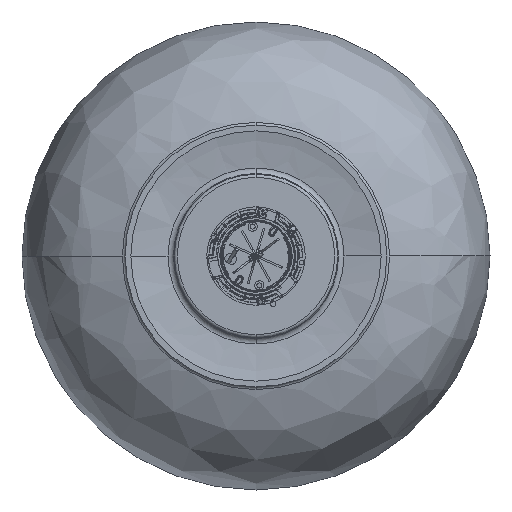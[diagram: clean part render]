
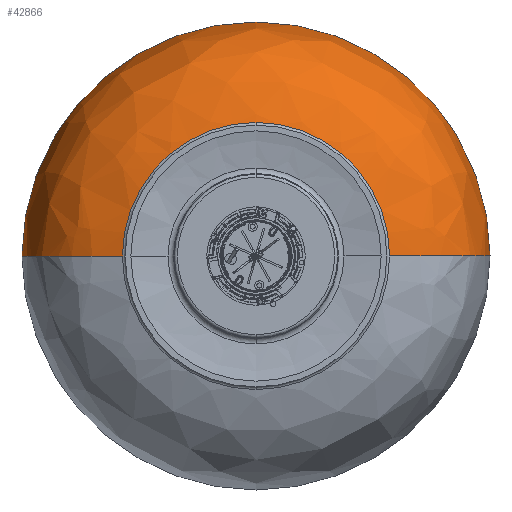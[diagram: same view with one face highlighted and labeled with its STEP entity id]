
A CAD part, front view. The second image highlights one B-rep face of the part: STEP entity #42866.
In plain terms, the highlighted free-form (B-spline) face has degree [3, 3] with [7, 4] control points.
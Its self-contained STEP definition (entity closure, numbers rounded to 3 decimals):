
#135 = CARTESIAN_POINT ( 'NONE',  ( 0.192, -274.462, 115.219 ) ) ;
#932 = CARTESIAN_POINT ( 'NONE',  ( 178.185, -248.922, -0.055 ) ) ;
#2837 = CARTESIAN_POINT ( 'NONE',  ( 202.244, -157.283, 404.048 ) ) ;
#5146 = CARTESIAN_POINT ( 'NONE',  ( 140.776, -267.66, -0.055 ) ) ;
#5897 = B_SPLINE_CURVE_WITH_KNOTS ( 'NONE', 3,
 ( #38469, #74370, #5146, #38111, #33497, #10470, #61929 ),
 .UNSPECIFIED., .F., .F.,
 ( 4, 1, 1, 1, 4 ),
 ( 0.172, 0.189, 0.329, 0.437, 0.579 ),
 .UNSPECIFIED. ) ;
#6243 = EDGE_CURVE ( 'NONE', #33276, #27416, #10997, .T. ) ;
#6663 = CARTESIAN_POINT ( 'NONE',  ( -140.391, -267.66, -0.055 ) ) ;
#7109 =( BOUNDED_SURFACE ( )  B_SPLINE_SURFACE ( 3, 3, ( 
 ( #59615, #7797, #30828, #71375 ),
 ( #19492, #42597, #17982, #41073 ),
 ( #29668, #64186, #58501, #6663 ),
 ( #932, #24027, #72107, #14214 ),
 ( #15300, #61492, #73215, #60380 ),
 ( #48619, #2837, #20238, #37318 ),
 ( #9677, #71734, #67227, #60749 ) ),
 .UNSPECIFIED., .F., .F., .F. ) 
 B_SPLINE_SURFACE_WITH_KNOTS ( ( 4, 1, 1, 1, 4 ),
 ( 4, 4 ),
 ( 0.172, 0.189, 0.329, 0.437, 0.579 ),
 ( 0., 1. ),
 .UNSPECIFIED. ) 
 GEOMETRIC_REPRESENTATION_ITEM ( )  RATIONAL_B_SPLINE_SURFACE ( (
 ( 1., 0.333, 0.333, 1.),
 ( 1., 0.333, 0.333, 1.),
 ( 1., 0.333, 0.333, 1.),
 ( 1., 0.333, 0.333, 1.),
 ( 1., 0.333, 0.333, 1.),
 ( 1., 0.333, 0.333, 1.),
 ( 1., 0.333, 0.333, 1.) ) ) 
 REPRESENTATION_ITEM ( '' )  SURFACE ( )  );
#7797 = CARTESIAN_POINT ( 'NONE',  ( 115.466, -274.462, 230.492 ) ) ;
#9677 = CARTESIAN_POINT ( 'NONE',  ( 202.192, -136.5, -0.055 ) ) ;
#9952 = EDGE_CURVE ( 'NONE', #19084, #20397, #43111, .T. ) ;
#10470 = CARTESIAN_POINT ( 'NONE',  ( 202.244, -157.283, -0.055 ) ) ;
#10997 = CIRCLE ( 'NONE', #61773, 202. ) ;
#12044 = CARTESIAN_POINT ( 'NONE',  ( 202.192, -136.5, -0.055 ) ) ;
#12428 = ORIENTED_EDGE ( 'NONE', *, *, #6243, .T. ) ;
#12552 = CARTESIAN_POINT ( 'NONE',  ( 0.192, -274.462, -0.055 ) ) ;
#14214 = CARTESIAN_POINT ( 'NONE',  ( -177.801, -248.922, -0.055 ) ) ;
#15300 = CARTESIAN_POINT ( 'NONE',  ( 201.246, -195.828, -0.055 ) ) ;
#17928 = CARTESIAN_POINT ( 'NONE',  ( -140.391, -267.66, -0.055 ) ) ;
#17982 = CARTESIAN_POINT ( 'NONE',  ( -117.496, -273.859, 235.322 ) ) ;
#19084 = VERTEX_POINT ( 'NONE', #56633 ) ;
#19434 = AXIS2_PLACEMENT_3D ( 'NONE', #12552, #24245, #42440 ) ;
#19441 = CARTESIAN_POINT ( 'NONE',  ( -117.496, -273.859, -0.055 ) ) ;
#19492 = CARTESIAN_POINT ( 'NONE',  ( 117.881, -273.859, -0.055 ) ) ;
#20238 = CARTESIAN_POINT ( 'NONE',  ( -201.859, -157.283, 404.048 ) ) ;
#20397 = VERTEX_POINT ( 'NONE', #135 ) ;
#23055 = DIRECTION ( 'NONE',  ( 0., 0., -1. ) ) ;
#24027 = CARTESIAN_POINT ( 'NONE',  ( 178.185, -248.922, 355.931 ) ) ;
#24245 = DIRECTION ( 'NONE',  ( 0., 1., 0. ) ) ;
#24732 = CARTESIAN_POINT ( 'NONE',  ( -201.808, -136.5, -0.055 ) ) ;
#25038 = ORIENTED_EDGE ( 'NONE', *, *, #61482, .T. ) ;
#25636 = VERTEX_POINT ( 'NONE', #70915 ) ;
#27416 = VERTEX_POINT ( 'NONE', #72669 ) ;
#29668 = CARTESIAN_POINT ( 'NONE',  ( 140.776, -267.66, -0.055 ) ) ;
#30828 = CARTESIAN_POINT ( 'NONE',  ( -115.081, -274.462, 230.492 ) ) ;
#32656 = CIRCLE ( 'NONE', #19434, 115.274 ) ;
#32747 = EDGE_CURVE ( 'NONE', #25636, #33276, #5897, .T. ) ;
#33276 = VERTEX_POINT ( 'NONE', #12044 ) ;
#33497 = CARTESIAN_POINT ( 'NONE',  ( 201.246, -195.828, -0.055 ) ) ;
#37318 = CARTESIAN_POINT ( 'NONE',  ( -201.859, -157.283, -0.055 ) ) ;
#38111 = CARTESIAN_POINT ( 'NONE',  ( 178.185, -248.922, -0.055 ) ) ;
#38241 = CARTESIAN_POINT ( 'NONE',  ( 0.192, -136.5, -0.055 ) ) ;
#38469 = CARTESIAN_POINT ( 'NONE',  ( 115.466, -274.462, -0.055 ) ) ;
#41073 = CARTESIAN_POINT ( 'NONE',  ( -117.496, -273.859, -0.055 ) ) ;
#42440 = DIRECTION ( 'NONE',  ( 0., 0., -1. ) ) ;
#42597 = CARTESIAN_POINT ( 'NONE',  ( 117.881, -273.859, 235.322 ) ) ;
#42866 = ADVANCED_FACE ( 'NONE', ( #64952 ), #7109, .T. ) ;
#43111 = CIRCLE ( 'NONE', #58806, 115.274 ) ;
#43626 = ORIENTED_EDGE ( 'NONE', *, *, #9952, .T. ) ;
#46382 = DIRECTION ( 'NONE',  ( 0., -1., 0. ) ) ;
#47973 = EDGE_LOOP ( 'NONE', ( #25038, #58339, #12428, #49803, #43626 ) ) ;
#48187 = CARTESIAN_POINT ( 'NONE',  ( -115.081, -274.462, -0.055 ) ) ;
#48619 = CARTESIAN_POINT ( 'NONE',  ( 202.244, -157.283, -0.055 ) ) ;
#49803 = ORIENTED_EDGE ( 'NONE', *, *, #72188, .F. ) ;
#56633 = CARTESIAN_POINT ( 'NONE',  ( -115.081, -274.462, -0.055 ) ) ;
#58339 = ORIENTED_EDGE ( 'NONE', *, *, #32747, .T. ) ;
#58501 = CARTESIAN_POINT ( 'NONE',  ( -140.391, -267.66, 281.112 ) ) ;
#58806 = AXIS2_PLACEMENT_3D ( 'NONE', #68582, #74925, #23055 ) ;
#59193 = CARTESIAN_POINT ( 'NONE',  ( -177.801, -248.922, -0.055 ) ) ;
#59615 = CARTESIAN_POINT ( 'NONE',  ( 115.466, -274.462, -0.055 ) ) ;
#59943 = CARTESIAN_POINT ( 'NONE',  ( -200.861, -195.828, -0.055 ) ) ;
#60380 = CARTESIAN_POINT ( 'NONE',  ( -200.861, -195.828, -0.055 ) ) ;
#60749 = CARTESIAN_POINT ( 'NONE',  ( -201.808, -136.5, -0.055 ) ) ;
#61316 = DIRECTION ( 'NONE',  ( 0., 0., -1. ) ) ;
#61482 = EDGE_CURVE ( 'NONE', #20397, #25636, #32656, .T. ) ;
#61492 = CARTESIAN_POINT ( 'NONE',  ( 201.246, -195.828, 402.052 ) ) ;
#61773 = AXIS2_PLACEMENT_3D ( 'NONE', #38241, #46382, #61316 ) ;
#61929 = CARTESIAN_POINT ( 'NONE',  ( 202.192, -136.5, -0.055 ) ) ;
#64186 = CARTESIAN_POINT ( 'NONE',  ( 140.776, -267.66, 281.112 ) ) ;
#64906 = CARTESIAN_POINT ( 'NONE',  ( -201.859, -157.283, -0.055 ) ) ;
#64952 = FACE_OUTER_BOUND ( 'NONE', #47973, .T. ) ;
#65243 = B_SPLINE_CURVE_WITH_KNOTS ( 'NONE', 3,
 ( #48187, #19441, #17928, #59193, #59943, #64906, #24732 ),
 .UNSPECIFIED., .F., .F.,
 ( 4, 1, 1, 1, 4 ),
 ( 0.172, 0.189, 0.329, 0.437, 0.579 ),
 .UNSPECIFIED. ) ;
#67227 = CARTESIAN_POINT ( 'NONE',  ( -201.808, -136.5, 403.945 ) ) ;
#68582 = CARTESIAN_POINT ( 'NONE',  ( 0.192, -274.462, -0.055 ) ) ;
#70915 = CARTESIAN_POINT ( 'NONE',  ( 115.466, -274.462, -0.055 ) ) ;
#71375 = CARTESIAN_POINT ( 'NONE',  ( -115.081, -274.462, -0.055 ) ) ;
#71734 = CARTESIAN_POINT ( 'NONE',  ( 202.192, -136.5, 403.945 ) ) ;
#72107 = CARTESIAN_POINT ( 'NONE',  ( -177.801, -248.922, 355.931 ) ) ;
#72188 = EDGE_CURVE ( 'NONE', #19084, #27416, #65243, .T. ) ;
#72669 = CARTESIAN_POINT ( 'NONE',  ( -201.808, -136.5, -0.055 ) ) ;
#73215 = CARTESIAN_POINT ( 'NONE',  ( -200.861, -195.828, 402.052 ) ) ;
#74370 = CARTESIAN_POINT ( 'NONE',  ( 117.881, -273.859, -0.055 ) ) ;
#74925 = DIRECTION ( 'NONE',  ( 0., 1., 0. ) ) ;
